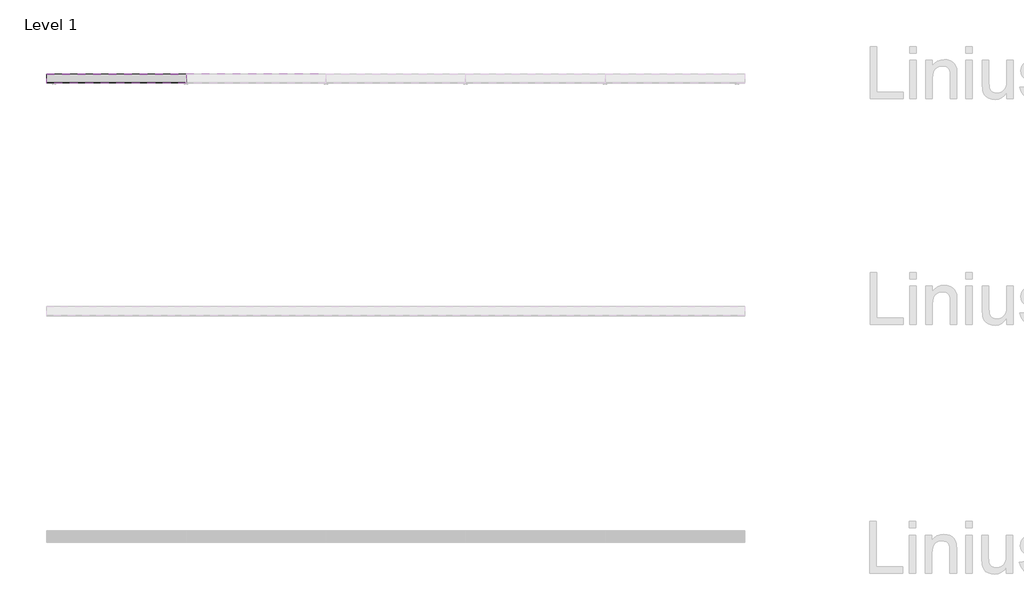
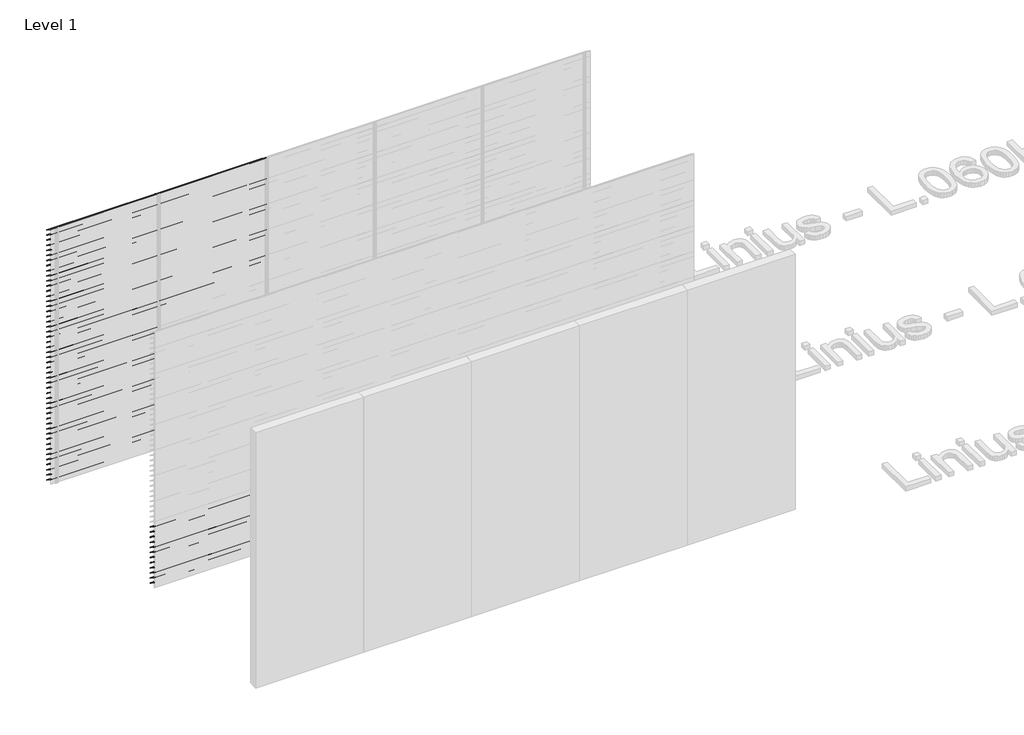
# One storey, part 132 of 153: 85 proxies.
"""IFC4 building model written with IfcOpenShell, lengths in millimetres."""

from ifc_helpers import new_model, si_unit, frame, origin, place, context, project, spatial, polyline, outline, extrude, element, save

model = new_model("IFC4")

# Units and contexts
model_context = context("Model", 3, world=origin())
ifc_project = project(units=[si_unit("LENGTHUNIT", "METRE", prefix="MILLI")], contexts=[model_context])

# Site, building, storey
site = spatial("IfcSite", under=ifc_project)
building = spatial("IfcBuilding", under=site)
storey = spatial("IfcBuildingStorey", under=building, Name="Level 1", Elevation=0.0)

# Proxies
placement = place(None, origin())
element("IfcBuildingElementProxy", 1, Name="Wall Sweeps", at=placement, inside=storey, context=model_context, shape_type="SweptSolid", body=[
    extrude(outline(polyline([(74061.0540136, 2946.0), (74061.0540136, 2940.0), (74059.8040136, 2940.7216933), (74059.8040136, 2945.2538091), (73983.0540136, 2993.9915103), (73983.0540136, 3000.0), (73984.3040136, 3000.0), (73984.3040136, 2994.7377012), (74061.0540136, 2946.0)])), frame((466.6208097, 0.0, 0.0), z_axis=(1.0, 0.0, 0.0), x_axis=(0.0, 1.0, 0.0)), (0.0, 0.0, 1.0), 1200.0000002),
])
element("IfcBuildingElementProxy", 2, Name="Wall Sweeps", at=placement, inside=storey, context=model_context, shape_type="SweptSolid", body=[
    extrude(outline(polyline([(74061.0540136, 2886.0), (74061.0540136, 2880.0), (74059.8040136, 2880.7216933), (74059.8040136, 2885.2538091), (73983.0540136, 2933.9915103), (73983.0540136, 2940.0), (73984.3040136, 2940.0), (73984.3040136, 2934.7377012), (74061.0540136, 2886.0)])), frame((466.6208097, 0.0, 0.0), z_axis=(1.0, 0.0, 0.0), x_axis=(0.0, 1.0, 0.0)), (0.0, 0.0, 1.0), 1200.0000002),
])
element("IfcBuildingElementProxy", 3, Name="Wall Sweeps", at=placement, inside=storey, context=model_context, shape_type="SweptSolid", body=[
    extrude(outline(polyline([(74061.0540136, 2826.0), (74061.0540136, 2820.0), (74059.8040136, 2820.7216933), (74059.8040136, 2825.2538091), (73983.0540136, 2873.9915103), (73983.0540136, 2880.0), (73984.3040136, 2880.0), (73984.3040136, 2874.7377012), (74061.0540136, 2826.0)])), frame((466.6208097, 0.0, 0.0), z_axis=(1.0, 0.0, 0.0), x_axis=(0.0, 1.0, 0.0)), (0.0, 0.0, 1.0), 1200.0000002),
])
element("IfcBuildingElementProxy", 4, Name="Wall Sweeps", at=placement, inside=storey, context=model_context, shape_type="SweptSolid", body=[
    extrude(outline(polyline([(74061.0540136, 2766.0), (74061.0540136, 2760.0), (74059.8040136, 2760.7216933), (74059.8040136, 2765.2538091), (73983.0540136, 2813.9915103), (73983.0540136, 2820.0), (73984.3040136, 2820.0), (73984.3040136, 2814.7377012), (74061.0540136, 2766.0)])), frame((466.6208097, 0.0, 0.0), z_axis=(1.0, 0.0, 0.0), x_axis=(0.0, 1.0, 0.0)), (0.0, 0.0, 1.0), 1200.0000002),
])
element("IfcBuildingElementProxy", 5, Name="Wall Sweeps", at=placement, inside=storey, context=model_context, shape_type="SweptSolid", body=[
    extrude(outline(polyline([(74061.0540136, 2706.0), (74061.0540136, 2700.0), (74059.8040136, 2700.7216933), (74059.8040136, 2705.2538091), (73983.0540136, 2753.9915103), (73983.0540136, 2760.0), (73984.3040136, 2760.0), (73984.3040136, 2754.7377012), (74061.0540136, 2706.0)])), frame((466.6208097, 0.0, 0.0), z_axis=(1.0, 0.0, 0.0), x_axis=(0.0, 1.0, 0.0)), (0.0, 0.0, 1.0), 1200.0000002),
])
element("IfcBuildingElementProxy", 6, Name="Wall Sweeps", at=placement, inside=storey, context=model_context, shape_type="SweptSolid", body=[
    extrude(outline(polyline([(74061.0540136, 2646.0), (74061.0540136, 2640.0), (74059.8040136, 2640.7216933), (74059.8040136, 2645.2538091), (73983.0540136, 2693.9915103), (73983.0540136, 2700.0), (73984.3040136, 2700.0), (73984.3040136, 2694.7377012), (74061.0540136, 2646.0)])), frame((466.6208097, 0.0, 0.0), z_axis=(1.0, 0.0, 0.0), x_axis=(0.0, 1.0, 0.0)), (0.0, 0.0, 1.0), 1200.0000002),
])
element("IfcBuildingElementProxy", 7, Name="Wall Sweeps", at=placement, inside=storey, context=model_context, shape_type="SweptSolid", body=[
    extrude(outline(polyline([(74061.0540136, 2586.0), (74061.0540136, 2580.0), (74059.8040136, 2580.7216933), (74059.8040136, 2585.2538091), (73983.0540136, 2633.9915103), (73983.0540136, 2640.0), (73984.3040136, 2640.0), (73984.3040136, 2634.7377012), (74061.0540136, 2586.0)])), frame((466.6208097, 0.0, 0.0), z_axis=(1.0, 0.0, 0.0), x_axis=(0.0, 1.0, 0.0)), (0.0, 0.0, 1.0), 1200.0000002),
])
element("IfcBuildingElementProxy", 8, Name="Wall Sweeps", at=placement, inside=storey, context=model_context, shape_type="SweptSolid", body=[
    extrude(outline(polyline([(74061.0540136, 2526.0), (74061.0540136, 2520.0), (74059.8040136, 2520.7216933), (74059.8040136, 2525.2538091), (73983.0540136, 2573.9915103), (73983.0540136, 2580.0), (73984.3040136, 2580.0), (73984.3040136, 2574.7377012), (74061.0540136, 2526.0)])), frame((466.6208097, 0.0, 0.0), z_axis=(1.0, 0.0, 0.0), x_axis=(0.0, 1.0, 0.0)), (0.0, 0.0, 1.0), 1200.0000002),
])
element("IfcBuildingElementProxy", 9, Name="Wall Sweeps", at=placement, inside=storey, context=model_context, shape_type="SweptSolid", body=[
    extrude(outline(polyline([(74061.0540136, 2466.0), (74061.0540136, 2460.0), (74059.8040136, 2460.7216933), (74059.8040136, 2465.2538091), (73983.0540136, 2513.9915103), (73983.0540136, 2520.0), (73984.3040136, 2520.0), (73984.3040136, 2514.7377012), (74061.0540136, 2466.0)])), frame((466.6208097, 0.0, 0.0), z_axis=(1.0, 0.0, 0.0), x_axis=(0.0, 1.0, 0.0)), (0.0, 0.0, 1.0), 1200.0000002),
])
element("IfcBuildingElementProxy", 10, Name="Wall Sweeps", at=placement, inside=storey, context=model_context, shape_type="SweptSolid", body=[
    extrude(outline(polyline([(74061.0540136, 2406.0), (74061.0540136, 2400.0), (74059.8040136, 2400.7216933), (74059.8040136, 2405.2538091), (73983.0540136, 2453.9915103), (73983.0540136, 2460.0), (73984.3040136, 2460.0), (73984.3040136, 2454.7377012), (74061.0540136, 2406.0)])), frame((466.6208097, 0.0, 0.0), z_axis=(1.0, 0.0, 0.0), x_axis=(0.0, 1.0, 0.0)), (0.0, 0.0, 1.0), 1200.0000002),
])
element("IfcBuildingElementProxy", 11, Name="Wall Sweeps", at=placement, inside=storey, context=model_context, shape_type="SweptSolid", body=[
    extrude(outline(polyline([(74061.0540136, 2346.0), (74061.0540136, 2340.0), (74059.8040136, 2340.7216933), (74059.8040136, 2345.2538091), (73983.0540136, 2393.9915103), (73983.0540136, 2400.0), (73984.3040136, 2400.0), (73984.3040136, 2394.7377012), (74061.0540136, 2346.0)])), frame((466.6208097, 0.0, 0.0), z_axis=(1.0, 0.0, 0.0), x_axis=(0.0, 1.0, 0.0)), (0.0, 0.0, 1.0), 1200.0000002),
])
element("IfcBuildingElementProxy", 12, Name="Wall Sweeps", at=placement, inside=storey, context=model_context, shape_type="SweptSolid", body=[
    extrude(outline(polyline([(74061.0540136, 2286.0), (74061.0540136, 2280.0), (74059.8040136, 2280.7216933), (74059.8040136, 2285.2538091), (73983.0540136, 2333.9915103), (73983.0540136, 2340.0), (73984.3040136, 2340.0), (73984.3040136, 2334.7377012), (74061.0540136, 2286.0)])), frame((466.6208097, 0.0, 0.0), z_axis=(1.0, 0.0, 0.0), x_axis=(0.0, 1.0, 0.0)), (0.0, 0.0, 1.0), 1200.0000002),
])
element("IfcBuildingElementProxy", 13, Name="Wall Sweeps", at=placement, inside=storey, context=model_context, shape_type="SweptSolid", body=[
    extrude(outline(polyline([(74061.0540136, 2226.0), (74061.0540136, 2220.0), (74059.8040136, 2220.7216933), (74059.8040136, 2225.2538091), (73983.0540136, 2273.9915103), (73983.0540136, 2280.0), (73984.3040136, 2280.0), (73984.3040136, 2274.7377012), (74061.0540136, 2226.0)])), frame((466.6208097, 0.0, 0.0), z_axis=(1.0, 0.0, 0.0), x_axis=(0.0, 1.0, 0.0)), (0.0, 0.0, 1.0), 1200.0000002),
])
element("IfcBuildingElementProxy", 14, Name="Wall Sweeps", at=placement, inside=storey, context=model_context, shape_type="SweptSolid", body=[
    extrude(outline(polyline([(74061.0540136, 2166.0), (74061.0540136, 2160.0), (74059.8040136, 2160.7216933), (74059.8040136, 2165.2538091), (73983.0540136, 2213.9915103), (73983.0540136, 2220.0), (73984.3040136, 2220.0), (73984.3040136, 2214.7377012), (74061.0540136, 2166.0)])), frame((466.6208097, 0.0, 0.0), z_axis=(1.0, 0.0, 0.0), x_axis=(0.0, 1.0, 0.0)), (0.0, 0.0, 1.0), 1200.0000002),
])
element("IfcBuildingElementProxy", 15, Name="Wall Sweeps", at=placement, inside=storey, context=model_context, shape_type="SweptSolid", body=[
    extrude(outline(polyline([(74061.0540136, 2106.0), (74061.0540136, 2100.0), (74059.8040136, 2100.7216933), (74059.8040136, 2105.2538091), (73983.0540136, 2153.9915103), (73983.0540136, 2160.0), (73984.3040136, 2160.0), (73984.3040136, 2154.7377012), (74061.0540136, 2106.0)])), frame((466.6208097, 0.0, 0.0), z_axis=(1.0, 0.0, 0.0), x_axis=(0.0, 1.0, 0.0)), (0.0, 0.0, 1.0), 1200.0000002),
])
element("IfcBuildingElementProxy", 16, Name="Wall Sweeps", at=placement, inside=storey, context=model_context, shape_type="SweptSolid", body=[
    extrude(outline(polyline([(74061.0540136, 2046.0), (74061.0540136, 2040.0), (74059.8040136, 2040.7216933), (74059.8040136, 2045.2538091), (73983.0540136, 2093.9915103), (73983.0540136, 2100.0), (73984.3040136, 2100.0), (73984.3040136, 2094.7377012), (74061.0540136, 2046.0)])), frame((466.6208097, 0.0, 0.0), z_axis=(1.0, 0.0, 0.0), x_axis=(0.0, 1.0, 0.0)), (0.0, 0.0, 1.0), 1200.0000002),
])
element("IfcBuildingElementProxy", 17, Name="Wall Sweeps", at=placement, inside=storey, context=model_context, shape_type="SweptSolid", body=[
    extrude(outline(polyline([(74061.0540136, 1986.0), (74061.0540136, 1980.0), (74059.8040136, 1980.7216933), (74059.8040136, 1985.2538091), (73983.0540136, 2033.9915103), (73983.0540136, 2040.0), (73984.3040136, 2040.0), (73984.3040136, 2034.7377012), (74061.0540136, 1986.0)])), frame((466.6208097, 0.0, 0.0), z_axis=(1.0, 0.0, 0.0), x_axis=(0.0, 1.0, 0.0)), (0.0, 0.0, 1.0), 1200.0000002),
])
element("IfcBuildingElementProxy", 18, Name="Wall Sweeps", at=placement, inside=storey, context=model_context, shape_type="SweptSolid", body=[
    extrude(outline(polyline([(74061.0540136, 1926.0), (74061.0540136, 1920.0), (74059.8040136, 1920.7216933), (74059.8040136, 1925.2538091), (73983.0540136, 1973.9915103), (73983.0540136, 1980.0), (73984.3040136, 1980.0), (73984.3040136, 1974.7377012), (74061.0540136, 1926.0)])), frame((466.6208097, 0.0, 0.0), z_axis=(1.0, 0.0, 0.0), x_axis=(0.0, 1.0, 0.0)), (0.0, 0.0, 1.0), 1200.0000002),
])
element("IfcBuildingElementProxy", 19, Name="Wall Sweeps", at=placement, inside=storey, context=model_context, shape_type="SweptSolid", body=[
    extrude(outline(polyline([(74061.0540136, 1866.0), (74061.0540136, 1860.0), (74059.8040136, 1860.7216933), (74059.8040136, 1865.2538091), (73983.0540136, 1913.9915103), (73983.0540136, 1920.0), (73984.3040136, 1920.0), (73984.3040136, 1914.7377012), (74061.0540136, 1866.0)])), frame((466.6208097, 0.0, 0.0), z_axis=(1.0, 0.0, 0.0), x_axis=(0.0, 1.0, 0.0)), (0.0, 0.0, 1.0), 1200.0000002),
])
element("IfcBuildingElementProxy", 20, Name="Wall Sweeps", at=placement, inside=storey, context=model_context, shape_type="SweptSolid", body=[
    extrude(outline(polyline([(74061.0540136, 1806.0), (74061.0540136, 1800.0), (74059.8040136, 1800.7216933), (74059.8040136, 1805.2538091), (73983.0540136, 1853.9915103), (73983.0540136, 1860.0), (73984.3040136, 1860.0), (73984.3040136, 1854.7377012), (74061.0540136, 1806.0)])), frame((466.6208097, 0.0, 0.0), z_axis=(1.0, 0.0, 0.0), x_axis=(0.0, 1.0, 0.0)), (0.0, 0.0, 1.0), 1200.0000002),
])
element("IfcBuildingElementProxy", 21, Name="Wall Sweeps", at=placement, inside=storey, context=model_context, shape_type="SweptSolid", body=[
    extrude(outline(polyline([(74061.0540136, 1746.0), (74061.0540136, 1740.0), (74059.8040136, 1740.7216933), (74059.8040136, 1745.2538091), (73983.0540136, 1793.9915103), (73983.0540136, 1800.0), (73984.3040136, 1800.0), (73984.3040136, 1794.7377012), (74061.0540136, 1746.0)])), frame((466.6208097, 0.0, 0.0), z_axis=(1.0, 0.0, 0.0), x_axis=(0.0, 1.0, 0.0)), (0.0, 0.0, 1.0), 1200.0000002),
])
element("IfcBuildingElementProxy", 22, Name="Wall Sweeps", at=placement, inside=storey, context=model_context, shape_type="SweptSolid", body=[
    extrude(outline(polyline([(74061.0540136, 1686.0), (74061.0540136, 1680.0), (74059.8040136, 1680.7216933), (74059.8040136, 1685.2538091), (73983.0540136, 1733.9915103), (73983.0540136, 1740.0), (73984.3040136, 1740.0), (73984.3040136, 1734.7377012), (74061.0540136, 1686.0)])), frame((466.6208097, 0.0, 0.0), z_axis=(1.0, 0.0, 0.0), x_axis=(0.0, 1.0, 0.0)), (0.0, 0.0, 1.0), 1200.0000002),
])
element("IfcBuildingElementProxy", 23, Name="Wall Sweeps", at=placement, inside=storey, context=model_context, shape_type="SweptSolid", body=[
    extrude(outline(polyline([(74061.0540136, 1626.0), (74061.0540136, 1620.0), (74059.8040136, 1620.7216933), (74059.8040136, 1625.2538091), (73983.0540136, 1673.9915103), (73983.0540136, 1680.0), (73984.3040136, 1680.0), (73984.3040136, 1674.7377012), (74061.0540136, 1626.0)])), frame((466.6208097, 0.0, 0.0), z_axis=(1.0, 0.0, 0.0), x_axis=(0.0, 1.0, 0.0)), (0.0, 0.0, 1.0), 1200.0000002),
])
element("IfcBuildingElementProxy", 24, Name="Wall Sweeps", at=placement, inside=storey, context=model_context, shape_type="SweptSolid", body=[
    extrude(outline(polyline([(74061.0540136, 1566.0), (74061.0540136, 1560.0), (74059.8040136, 1560.7216933), (74059.8040136, 1565.2538091), (73983.0540136, 1613.9915103), (73983.0540136, 1620.0), (73984.3040136, 1620.0), (73984.3040136, 1614.7377012), (74061.0540136, 1566.0)])), frame((466.6208097, 0.0, 0.0), z_axis=(1.0, 0.0, 0.0), x_axis=(0.0, 1.0, 0.0)), (0.0, 0.0, 1.0), 1200.0000002),
])
element("IfcBuildingElementProxy", 25, Name="Wall Sweeps", at=placement, inside=storey, context=model_context, shape_type="SweptSolid", body=[
    extrude(outline(polyline([(74061.0540136, 1506.0), (74061.0540136, 1500.0), (74059.8040136, 1500.7216933), (74059.8040136, 1505.2538091), (73983.0540136, 1553.9915103), (73983.0540136, 1560.0), (73984.3040136, 1560.0), (73984.3040136, 1554.7377012), (74061.0540136, 1506.0)])), frame((466.6208097, 0.0, 0.0), z_axis=(1.0, 0.0, 0.0), x_axis=(0.0, 1.0, 0.0)), (0.0, 0.0, 1.0), 1200.0000002),
])
element("IfcBuildingElementProxy", 26, Name="Wall Sweeps", at=placement, inside=storey, context=model_context, shape_type="SweptSolid", body=[
    extrude(outline(polyline([(74061.0540136, 1446.0), (74061.0540136, 1440.0), (74059.8040136, 1440.7216933), (74059.8040136, 1445.2538091), (73983.0540136, 1493.9915103), (73983.0540136, 1500.0), (73984.3040136, 1500.0), (73984.3040136, 1494.7377012), (74061.0540136, 1446.0)])), frame((466.6208097, 0.0, 0.0), z_axis=(1.0, 0.0, 0.0), x_axis=(0.0, 1.0, 0.0)), (0.0, 0.0, 1.0), 1200.0000002),
])
element("IfcBuildingElementProxy", 27, Name="Wall Sweeps", at=placement, inside=storey, context=model_context, shape_type="SweptSolid", body=[
    extrude(outline(polyline([(74061.0540136, 1386.0), (74061.0540136, 1380.0), (74059.8040136, 1380.7216933), (74059.8040136, 1385.2538091), (73983.0540136, 1433.9915103), (73983.0540136, 1440.0), (73984.3040136, 1440.0), (73984.3040136, 1434.7377012), (74061.0540136, 1386.0)])), frame((466.6208097, 0.0, 0.0), z_axis=(1.0, 0.0, 0.0), x_axis=(0.0, 1.0, 0.0)), (0.0, 0.0, 1.0), 1200.0000002),
])
element("IfcBuildingElementProxy", 28, Name="Wall Sweeps", at=placement, inside=storey, context=model_context, shape_type="SweptSolid", body=[
    extrude(outline(polyline([(74061.0540136, 1326.0), (74061.0540136, 1320.0), (74059.8040136, 1320.7216933), (74059.8040136, 1325.2538091), (73983.0540136, 1373.9915103), (73983.0540136, 1380.0), (73984.3040136, 1380.0), (73984.3040136, 1374.7377012), (74061.0540136, 1326.0)])), frame((466.6208097, 0.0, 0.0), z_axis=(1.0, 0.0, 0.0), x_axis=(0.0, 1.0, 0.0)), (0.0, 0.0, 1.0), 1200.0000002),
])
element("IfcBuildingElementProxy", 29, Name="Wall Sweeps", at=placement, inside=storey, context=model_context, shape_type="SweptSolid", body=[
    extrude(outline(polyline([(74061.0540136, 1266.0), (74061.0540136, 1260.0), (74059.8040136, 1260.7216933), (74059.8040136, 1265.2538091), (73983.0540136, 1313.9915103), (73983.0540136, 1320.0), (73984.3040136, 1320.0), (73984.3040136, 1314.7377012), (74061.0540136, 1266.0)])), frame((466.6208097, 0.0, 0.0), z_axis=(1.0, 0.0, 0.0), x_axis=(0.0, 1.0, 0.0)), (0.0, 0.0, 1.0), 1200.0000002),
])
element("IfcBuildingElementProxy", 30, Name="Wall Sweeps", at=placement, inside=storey, context=model_context, shape_type="SweptSolid", body=[
    extrude(outline(polyline([(74061.0540136, 1206.0), (74061.0540136, 1200.0), (74059.8040136, 1200.7216933), (74059.8040136, 1205.2538091), (73983.0540136, 1253.9915103), (73983.0540136, 1260.0), (73984.3040136, 1260.0), (73984.3040136, 1254.7377012), (74061.0540136, 1206.0)])), frame((466.6208097, 0.0, 0.0), z_axis=(1.0, 0.0, 0.0), x_axis=(0.0, 1.0, 0.0)), (0.0, 0.0, 1.0), 1200.0000002),
])
element("IfcBuildingElementProxy", 31, Name="Wall Sweeps", at=placement, inside=storey, context=model_context, shape_type="SweptSolid", body=[
    extrude(outline(polyline([(74061.0540136, 1146.0), (74061.0540136, 1140.0), (74059.8040136, 1140.7216933), (74059.8040136, 1145.2538091), (73983.0540136, 1193.9915103), (73983.0540136, 1200.0), (73984.3040136, 1200.0), (73984.3040136, 1194.7377012), (74061.0540136, 1146.0)])), frame((466.6208097, 0.0, 0.0), z_axis=(1.0, 0.0, 0.0), x_axis=(0.0, 1.0, 0.0)), (0.0, 0.0, 1.0), 1200.0000002),
])
element("IfcBuildingElementProxy", 32, Name="Wall Sweeps", at=placement, inside=storey, context=model_context, shape_type="SweptSolid", body=[
    extrude(outline(polyline([(74061.0540136, 1086.0), (74061.0540136, 1080.0), (74059.8040136, 1080.7216933), (74059.8040136, 1085.2538091), (73983.0540136, 1133.9915103), (73983.0540136, 1140.0), (73984.3040136, 1140.0), (73984.3040136, 1134.7377012), (74061.0540136, 1086.0)])), frame((466.6208097, 0.0, 0.0), z_axis=(1.0, 0.0, 0.0), x_axis=(0.0, 1.0, 0.0)), (0.0, 0.0, 1.0), 1200.0000002),
])
element("IfcBuildingElementProxy", 33, Name="Wall Sweeps", at=placement, inside=storey, context=model_context, shape_type="SweptSolid", body=[
    extrude(outline(polyline([(74061.0540136, 1026.0), (74061.0540136, 1020.0), (74059.8040136, 1020.7216933), (74059.8040136, 1025.2538091), (73983.0540136, 1073.9915103), (73983.0540136, 1080.0), (73984.3040136, 1080.0), (73984.3040136, 1074.7377012), (74061.0540136, 1026.0)])), frame((466.6208097, 0.0, 0.0), z_axis=(1.0, 0.0, 0.0), x_axis=(0.0, 1.0, 0.0)), (0.0, 0.0, 1.0), 1200.0000002),
])
element("IfcBuildingElementProxy", 34, Name="Wall Sweeps", at=placement, inside=storey, context=model_context, shape_type="SweptSolid", body=[
    extrude(outline(polyline([(74061.0540136, 966.0), (74061.0540136, 960.0), (74059.8040136, 960.7216933), (74059.8040136, 965.2538091), (73983.0540136, 1013.9915103), (73983.0540136, 1020.0), (73984.3040136, 1020.0), (73984.3040136, 1014.7377012), (74061.0540136, 966.0)])), frame((466.6208097, 0.0, 0.0), z_axis=(1.0, 0.0, 0.0), x_axis=(0.0, 1.0, 0.0)), (0.0, 0.0, 1.0), 1200.0000002),
])
element("IfcBuildingElementProxy", 35, Name="Wall Sweeps", at=placement, inside=storey, context=model_context, shape_type="SweptSolid", body=[
    extrude(outline(polyline([(74061.0540136, 906.0), (74061.0540136, 900.0), (74059.8040136, 900.7216933), (74059.8040136, 905.2538091), (73983.0540136, 953.9915103), (73983.0540136, 960.0), (73984.3040136, 960.0), (73984.3040136, 954.7377012), (74061.0540136, 906.0)])), frame((466.6208097, 0.0, 0.0), z_axis=(1.0, 0.0, 0.0), x_axis=(0.0, 1.0, 0.0)), (0.0, 0.0, 1.0), 1200.0000002),
])
element("IfcBuildingElementProxy", 36, Name="Wall Sweeps", at=placement, inside=storey, context=model_context, shape_type="SweptSolid", body=[
    extrude(outline(polyline([(74061.0540136, 846.0), (74061.0540136, 840.0), (74059.8040136, 840.7216933), (74059.8040136, 845.2538091), (73983.0540136, 893.9915103), (73983.0540136, 900.0), (73984.3040136, 900.0), (73984.3040136, 894.7377012), (74061.0540136, 846.0)])), frame((466.6208097, 0.0, 0.0), z_axis=(1.0, 0.0, 0.0), x_axis=(0.0, 1.0, 0.0)), (0.0, 0.0, 1.0), 1200.0000002),
])
element("IfcBuildingElementProxy", 37, Name="Wall Sweeps", at=placement, inside=storey, context=model_context, shape_type="SweptSolid", body=[
    extrude(outline(polyline([(74061.0540136, 786.0), (74061.0540136, 780.0), (74059.8040136, 780.7216933), (74059.8040136, 785.2538091), (73983.0540136, 833.9915103), (73983.0540136, 840.0), (73984.3040136, 840.0), (73984.3040136, 834.7377012), (74061.0540136, 786.0)])), frame((466.6208097, 0.0, 0.0), z_axis=(1.0, 0.0, 0.0), x_axis=(0.0, 1.0, 0.0)), (0.0, 0.0, 1.0), 1200.0000002),
])
element("IfcBuildingElementProxy", 38, Name="Wall Sweeps", at=placement, inside=storey, context=model_context, shape_type="SweptSolid", body=[
    extrude(outline(polyline([(74061.0540136, 726.0), (74061.0540136, 720.0), (74059.8040136, 720.7216933), (74059.8040136, 725.2538091), (73983.0540136, 773.9915103), (73983.0540136, 780.0), (73984.3040136, 780.0), (73984.3040136, 774.7377012), (74061.0540136, 726.0)])), frame((466.6208097, 0.0, 0.0), z_axis=(1.0, 0.0, 0.0), x_axis=(0.0, 1.0, 0.0)), (0.0, 0.0, 1.0), 1200.0000002),
])
element("IfcBuildingElementProxy", 39, Name="Wall Sweeps", at=placement, inside=storey, context=model_context, shape_type="SweptSolid", body=[
    extrude(outline(polyline([(74061.0540136, 666.0), (74061.0540136, 660.0), (74059.8040136, 660.7216933), (74059.8040136, 665.2538091), (73983.0540136, 713.9915103), (73983.0540136, 720.0), (73984.3040136, 720.0), (73984.3040136, 714.7377012), (74061.0540136, 666.0)])), frame((466.6208097, 0.0, 0.0), z_axis=(1.0, 0.0, 0.0), x_axis=(0.0, 1.0, 0.0)), (0.0, 0.0, 1.0), 1200.0000002),
])
element("IfcBuildingElementProxy", 40, Name="Wall Sweeps", at=placement, inside=storey, context=model_context, shape_type="SweptSolid", body=[
    extrude(outline(polyline([(74061.0540136, 606.0), (74061.0540136, 600.0), (74059.8040136, 600.7216933), (74059.8040136, 605.2538091), (73983.0540136, 653.9915103), (73983.0540136, 660.0), (73984.3040136, 660.0), (73984.3040136, 654.7377012), (74061.0540136, 606.0)])), frame((466.6208097, 0.0, 0.0), z_axis=(1.0, 0.0, 0.0), x_axis=(0.0, 1.0, 0.0)), (0.0, 0.0, 1.0), 1200.0000002),
])
element("IfcBuildingElementProxy", 41, Name="Wall Sweeps", at=placement, inside=storey, context=model_context, shape_type="SweptSolid", body=[
    extrude(outline(polyline([(74061.0540136, 546.0), (74061.0540136, 540.0), (74059.8040136, 540.7216933), (74059.8040136, 545.2538091), (73983.0540136, 593.9915103), (73983.0540136, 600.0), (73984.3040136, 600.0), (73984.3040136, 594.7377012), (74061.0540136, 546.0)])), frame((466.6208097, 0.0, 0.0), z_axis=(1.0, 0.0, 0.0), x_axis=(0.0, 1.0, 0.0)), (0.0, 0.0, 1.0), 1200.0000002),
])
element("IfcBuildingElementProxy", 42, Name="Wall Sweeps", at=placement, inside=storey, context=model_context, shape_type="SweptSolid", body=[
    extrude(outline(polyline([(74061.0540136, 486.0), (74061.0540136, 480.0), (74059.8040136, 480.7216933), (74059.8040136, 485.2538091), (73983.0540136, 533.9915103), (73983.0540136, 540.0), (73984.3040136, 540.0), (73984.3040136, 534.7377012), (74061.0540136, 486.0)])), frame((466.6208097, 0.0, 0.0), z_axis=(1.0, 0.0, 0.0), x_axis=(0.0, 1.0, 0.0)), (0.0, 0.0, 1.0), 1200.0000002),
])
element("IfcBuildingElementProxy", 43, Name="Wall Sweeps", at=placement, inside=storey, context=model_context, shape_type="SweptSolid", body=[
    extrude(outline(polyline([(74061.0540136, 426.0), (74061.0540136, 420.0), (74059.8040136, 420.7216933), (74059.8040136, 425.2538091), (73983.0540136, 473.9915103), (73983.0540136, 480.0), (73984.3040136, 480.0), (73984.3040136, 474.7377012), (74061.0540136, 426.0)])), frame((466.6208097, 0.0, 0.0), z_axis=(1.0, 0.0, 0.0), x_axis=(0.0, 1.0, 0.0)), (0.0, 0.0, 1.0), 1200.0000002),
])
element("IfcBuildingElementProxy", 44, Name="Wall Sweeps", at=placement, inside=storey, context=model_context, shape_type="SweptSolid", body=[
    extrude(outline(polyline([(74061.0540136, 366.0), (74061.0540136, 360.0), (74059.8040136, 360.7216933), (74059.8040136, 365.2538091), (73983.0540136, 413.9915103), (73983.0540136, 420.0), (73984.3040136, 420.0), (73984.3040136, 414.7377012), (74061.0540136, 366.0)])), frame((466.6208097, 0.0, 0.0), z_axis=(1.0, 0.0, 0.0), x_axis=(0.0, 1.0, 0.0)), (0.0, 0.0, 1.0), 1200.0000002),
])
element("IfcBuildingElementProxy", 45, Name="Wall Sweeps", at=placement, inside=storey, context=model_context, shape_type="SweptSolid", body=[
    extrude(outline(polyline([(74061.0540136, 306.0), (74061.0540136, 300.0), (74059.8040136, 300.7216933), (74059.8040136, 305.2538091), (73983.0540136, 353.9915103), (73983.0540136, 360.0), (73984.3040136, 360.0), (73984.3040136, 354.7377012), (74061.0540136, 306.0)])), frame((466.6208097, 0.0, 0.0), z_axis=(1.0, 0.0, 0.0), x_axis=(0.0, 1.0, 0.0)), (0.0, 0.0, 1.0), 1200.0000002),
])
element("IfcBuildingElementProxy", 46, Name="Wall Sweeps", at=placement, inside=storey, context=model_context, shape_type="SweptSolid", body=[
    extrude(outline(polyline([(74061.0540136, 246.0), (74061.0540136, 240.0), (74059.8040136, 240.7216933), (74059.8040136, 245.2538091), (73983.0540136, 293.9915103), (73983.0540136, 300.0), (73984.3040136, 300.0), (73984.3040136, 294.7377012), (74061.0540136, 246.0)])), frame((466.6208097, 0.0, 0.0), z_axis=(1.0, 0.0, 0.0), x_axis=(0.0, 1.0, 0.0)), (0.0, 0.0, 1.0), 1200.0000002),
])
element("IfcBuildingElementProxy", 47, Name="Wall Sweeps", at=placement, inside=storey, context=model_context, shape_type="SweptSolid", body=[
    extrude(outline(polyline([(74061.0540136, 186.0), (74061.0540136, 180.0), (74059.8040136, 180.7216933), (74059.8040136, 185.2538091), (73983.0540136, 233.9915103), (73983.0540136, 240.0), (73984.3040136, 240.0), (73984.3040136, 234.7377012), (74061.0540136, 186.0)])), frame((466.6208097, 0.0, 0.0), z_axis=(1.0, 0.0, 0.0), x_axis=(0.0, 1.0, 0.0)), (0.0, 0.0, 1.0), 1200.0000002),
])
element("IfcBuildingElementProxy", 48, Name="Wall Sweeps", at=placement, inside=storey, context=model_context, shape_type="SweptSolid", body=[
    extrude(outline(polyline([(74061.0540136, 126.0), (74061.0540136, 120.0), (74059.8040136, 120.7216933), (74059.8040136, 125.2538091), (73983.0540136, 173.9915103), (73983.0540136, 180.0), (73984.3040136, 180.0), (73984.3040136, 174.7377012), (74061.0540136, 126.0)])), frame((466.6208097, 0.0, 0.0), z_axis=(1.0, 0.0, 0.0), x_axis=(0.0, 1.0, 0.0)), (0.0, 0.0, 1.0), 1200.0000002),
])
element("IfcBuildingElementProxy", 49, Name="Wall Sweeps", at=placement, inside=storey, context=model_context, shape_type="SweptSolid", body=[
    extrude(outline(polyline([(74061.0540136, 66.0), (74061.0540136, 60.0), (74059.8040136, 60.7216933), (74059.8040136, 65.2538091), (73983.0540136, 113.9915103), (73983.0540136, 120.0), (73984.3040136, 120.0), (73984.3040136, 114.7377012), (74061.0540136, 66.0)])), frame((466.6208097, 0.0, 0.0), z_axis=(1.0, 0.0, 0.0), x_axis=(0.0, 1.0, 0.0)), (0.0, 0.0, 1.0), 1200.0000002),
])
element("IfcBuildingElementProxy", 50, Name="Wall Sweeps", at=placement, inside=storey, context=model_context, shape_type="SweptSolid", body=[
    extrude(outline(polyline([(74061.0540136, 6.0), (74061.0540136, 0.0), (74059.8040136, 0.7216933), (74059.8040136, 5.2538091), (73983.0540136, 53.9915103), (73983.0540136, 60.0), (73984.3040136, 60.0), (73984.3040136, 54.7377012), (74061.0540136, 6.0)])), frame((466.6208097, 0.0, 0.0), z_axis=(1.0, 0.0, 0.0), x_axis=(0.0, 1.0, 0.0)), (0.0, 0.0, 1.0), 1200.0000002),
])
element("IfcBuildingElementProxy", 51, Name="Wall Sweeps", at=placement, inside=storey, context=model_context, shape_type="SweptSolid", body=[
    extrude(outline(polyline([(74061.0540136, 2946.0), (74061.0540136, 2940.0), (74059.8040136, 2940.7216933), (74059.8040136, 2945.2538091), (73983.0540136, 2993.9915103), (73983.0540136, 3000.0), (73984.3040136, 3000.0), (73984.3040136, 2994.7377012), (74061.0540136, 2946.0)])), frame((1666.6208099, 0.0, 0.0), z_axis=(1.0, 0.0, 0.0), x_axis=(0.0, 1.0, 0.0)), (0.0, 0.0, 1.0), 1199.9999999),
])
element("IfcBuildingElementProxy", 52, Name="Wall Sweeps", at=placement, inside=storey, context=model_context, shape_type="SweptSolid", body=[
    extrude(outline(polyline([(74061.0540136, 2886.0), (74061.0540136, 2880.0), (74059.8040136, 2880.7216933), (74059.8040136, 2885.2538091), (73983.0540136, 2933.9915103), (73983.0540136, 2940.0), (73984.3040136, 2940.0), (73984.3040136, 2934.7377012), (74061.0540136, 2886.0)])), frame((1666.6208099, 0.0, 0.0), z_axis=(1.0, 0.0, 0.0), x_axis=(0.0, 1.0, 0.0)), (0.0, 0.0, 1.0), 1199.9999999),
])
element("IfcBuildingElementProxy", 53, Name="Wall Sweeps", at=placement, inside=storey, context=model_context, shape_type="SweptSolid", body=[
    extrude(outline(polyline([(74061.0540136, 2826.0), (74061.0540136, 2820.0), (74059.8040136, 2820.7216933), (74059.8040136, 2825.2538091), (73983.0540136, 2873.9915103), (73983.0540136, 2880.0), (73984.3040136, 2880.0), (73984.3040136, 2874.7377012), (74061.0540136, 2826.0)])), frame((1666.6208099, 0.0, 0.0), z_axis=(1.0, 0.0, 0.0), x_axis=(0.0, 1.0, 0.0)), (0.0, 0.0, 1.0), 1199.9999999),
])
element("IfcBuildingElementProxy", 54, Name="Wall Sweeps", at=placement, inside=storey, context=model_context, shape_type="SweptSolid", body=[
    extrude(outline(polyline([(74061.0540136, 2766.0), (74061.0540136, 2760.0), (74059.8040136, 2760.7216933), (74059.8040136, 2765.2538091), (73983.0540136, 2813.9915103), (73983.0540136, 2820.0), (73984.3040136, 2820.0), (73984.3040136, 2814.7377012), (74061.0540136, 2766.0)])), frame((1666.6208099, 0.0, 0.0), z_axis=(1.0, 0.0, 0.0), x_axis=(0.0, 1.0, 0.0)), (0.0, 0.0, 1.0), 1199.9999999),
])
element("IfcBuildingElementProxy", 55, Name="Wall Sweeps", at=placement, inside=storey, context=model_context, shape_type="SweptSolid", body=[
    extrude(outline(polyline([(74061.0540136, 2706.0), (74061.0540136, 2700.0), (74059.8040136, 2700.7216933), (74059.8040136, 2705.2538091), (73983.0540136, 2753.9915103), (73983.0540136, 2760.0), (73984.3040136, 2760.0), (73984.3040136, 2754.7377012), (74061.0540136, 2706.0)])), frame((1666.6208099, 0.0, 0.0), z_axis=(1.0, 0.0, 0.0), x_axis=(0.0, 1.0, 0.0)), (0.0, 0.0, 1.0), 1199.9999999),
])
element("IfcBuildingElementProxy", 56, Name="Wall Sweeps", at=placement, inside=storey, context=model_context, shape_type="SweptSolid", body=[
    extrude(outline(polyline([(74061.0540136, 2646.0), (74061.0540136, 2640.0), (74059.8040136, 2640.7216933), (74059.8040136, 2645.2538091), (73983.0540136, 2693.9915103), (73983.0540136, 2700.0), (73984.3040136, 2700.0), (73984.3040136, 2694.7377012), (74061.0540136, 2646.0)])), frame((1666.6208099, 0.0, 0.0), z_axis=(1.0, 0.0, 0.0), x_axis=(0.0, 1.0, 0.0)), (0.0, 0.0, 1.0), 1199.9999999),
])
element("IfcBuildingElementProxy", 57, Name="Wall Sweeps", at=placement, inside=storey, context=model_context, shape_type="SweptSolid", body=[
    extrude(outline(polyline([(74061.0540136, 2586.0), (74061.0540136, 2580.0), (74059.8040136, 2580.7216933), (74059.8040136, 2585.2538091), (73983.0540136, 2633.9915103), (73983.0540136, 2640.0), (73984.3040136, 2640.0), (73984.3040136, 2634.7377012), (74061.0540136, 2586.0)])), frame((1666.6208099, 0.0, 0.0), z_axis=(1.0, 0.0, 0.0), x_axis=(0.0, 1.0, 0.0)), (0.0, 0.0, 1.0), 1199.9999999),
])
element("IfcBuildingElementProxy", 58, Name="Wall Sweeps", at=placement, inside=storey, context=model_context, shape_type="SweptSolid", body=[
    extrude(outline(polyline([(74061.0540136, 2526.0), (74061.0540136, 2520.0), (74059.8040136, 2520.7216933), (74059.8040136, 2525.2538091), (73983.0540136, 2573.9915103), (73983.0540136, 2580.0), (73984.3040136, 2580.0), (73984.3040136, 2574.7377012), (74061.0540136, 2526.0)])), frame((1666.6208099, 0.0, 0.0), z_axis=(1.0, 0.0, 0.0), x_axis=(0.0, 1.0, 0.0)), (0.0, 0.0, 1.0), 1199.9999999),
])
element("IfcBuildingElementProxy", 59, Name="Wall Sweeps", at=placement, inside=storey, context=model_context, shape_type="SweptSolid", body=[
    extrude(outline(polyline([(74061.0540136, 2466.0), (74061.0540136, 2460.0), (74059.8040136, 2460.7216933), (74059.8040136, 2465.2538091), (73983.0540136, 2513.9915103), (73983.0540136, 2520.0), (73984.3040136, 2520.0), (73984.3040136, 2514.7377012), (74061.0540136, 2466.0)])), frame((1666.6208099, 0.0, 0.0), z_axis=(1.0, 0.0, 0.0), x_axis=(0.0, 1.0, 0.0)), (0.0, 0.0, 1.0), 1199.9999999),
])
element("IfcBuildingElementProxy", 60, Name="Wall Sweeps", at=placement, inside=storey, context=model_context, shape_type="SweptSolid", body=[
    extrude(outline(polyline([(74061.0540136, 2406.0), (74061.0540136, 2400.0), (74059.8040136, 2400.7216933), (74059.8040136, 2405.2538091), (73983.0540136, 2453.9915103), (73983.0540136, 2460.0), (73984.3040136, 2460.0), (73984.3040136, 2454.7377012), (74061.0540136, 2406.0)])), frame((1666.6208099, 0.0, 0.0), z_axis=(1.0, 0.0, 0.0), x_axis=(0.0, 1.0, 0.0)), (0.0, 0.0, 1.0), 1199.9999999),
])
element("IfcBuildingElementProxy", 61, Name="Wall Sweeps", at=placement, inside=storey, context=model_context, shape_type="SweptSolid", body=[
    extrude(outline(polyline([(74061.0540136, 2346.0), (74061.0540136, 2340.0), (74059.8040136, 2340.7216933), (74059.8040136, 2345.2538091), (73983.0540136, 2393.9915103), (73983.0540136, 2400.0), (73984.3040136, 2400.0), (73984.3040136, 2394.7377012), (74061.0540136, 2346.0)])), frame((1666.6208099, 0.0, 0.0), z_axis=(1.0, 0.0, 0.0), x_axis=(0.0, 1.0, 0.0)), (0.0, 0.0, 1.0), 1199.9999999),
])
element("IfcBuildingElementProxy", 62, Name="Wall Sweeps", at=placement, inside=storey, context=model_context, shape_type="SweptSolid", body=[
    extrude(outline(polyline([(74061.0540136, 2286.0), (74061.0540136, 2280.0), (74059.8040136, 2280.7216933), (74059.8040136, 2285.2538091), (73983.0540136, 2333.9915103), (73983.0540136, 2340.0), (73984.3040136, 2340.0), (73984.3040136, 2334.7377012), (74061.0540136, 2286.0)])), frame((1666.6208099, 0.0, 0.0), z_axis=(1.0, 0.0, 0.0), x_axis=(0.0, 1.0, 0.0)), (0.0, 0.0, 1.0), 1199.9999999),
])
element("IfcBuildingElementProxy", 63, Name="Wall Sweeps", at=placement, inside=storey, context=model_context, shape_type="SweptSolid", body=[
    extrude(outline(polyline([(74061.0540136, 2226.0), (74061.0540136, 2220.0), (74059.8040136, 2220.7216933), (74059.8040136, 2225.2538091), (73983.0540136, 2273.9915103), (73983.0540136, 2280.0), (73984.3040136, 2280.0), (73984.3040136, 2274.7377012), (74061.0540136, 2226.0)])), frame((1666.6208099, 0.0, 0.0), z_axis=(1.0, 0.0, 0.0), x_axis=(0.0, 1.0, 0.0)), (0.0, 0.0, 1.0), 1199.9999999),
])
element("IfcBuildingElementProxy", 64, Name="Wall Sweeps", at=placement, inside=storey, context=model_context, shape_type="SweptSolid", body=[
    extrude(outline(polyline([(74061.0540136, 2166.0), (74061.0540136, 2160.0), (74059.8040136, 2160.7216933), (74059.8040136, 2165.2538091), (73983.0540136, 2213.9915103), (73983.0540136, 2220.0), (73984.3040136, 2220.0), (73984.3040136, 2214.7377012), (74061.0540136, 2166.0)])), frame((1666.6208099, 0.0, 0.0), z_axis=(1.0, 0.0, 0.0), x_axis=(0.0, 1.0, 0.0)), (0.0, 0.0, 1.0), 1199.9999999),
])
element("IfcBuildingElementProxy", 65, Name="Wall Sweeps", at=placement, inside=storey, context=model_context, shape_type="SweptSolid", body=[
    extrude(outline(polyline([(74061.0540136, 2106.0), (74061.0540136, 2100.0), (74059.8040136, 2100.7216933), (74059.8040136, 2105.2538091), (73983.0540136, 2153.9915103), (73983.0540136, 2160.0), (73984.3040136, 2160.0), (73984.3040136, 2154.7377012), (74061.0540136, 2106.0)])), frame((1666.6208099, 0.0, 0.0), z_axis=(1.0, 0.0, 0.0), x_axis=(0.0, 1.0, 0.0)), (0.0, 0.0, 1.0), 1199.9999999),
])
element("IfcBuildingElementProxy", 66, Name="Wall Sweeps", at=placement, inside=storey, context=model_context, shape_type="SweptSolid", body=[
    extrude(outline(polyline([(74061.0540136, 2046.0), (74061.0540136, 2040.0), (74059.8040136, 2040.7216933), (74059.8040136, 2045.2538091), (73983.0540136, 2093.9915103), (73983.0540136, 2100.0), (73984.3040136, 2100.0), (73984.3040136, 2094.7377012), (74061.0540136, 2046.0)])), frame((1666.6208099, 0.0, 0.0), z_axis=(1.0, 0.0, 0.0), x_axis=(0.0, 1.0, 0.0)), (0.0, 0.0, 1.0), 1199.9999999),
])
element("IfcBuildingElementProxy", 67, Name="Wall Sweeps", at=placement, inside=storey, context=model_context, shape_type="SweptSolid", body=[
    extrude(outline(polyline([(74061.0540136, 1986.0), (74061.0540136, 1980.0), (74059.8040136, 1980.7216933), (74059.8040136, 1985.2538091), (73983.0540136, 2033.9915103), (73983.0540136, 2040.0), (73984.3040136, 2040.0), (73984.3040136, 2034.7377012), (74061.0540136, 1986.0)])), frame((1666.6208099, 0.0, 0.0), z_axis=(1.0, 0.0, 0.0), x_axis=(0.0, 1.0, 0.0)), (0.0, 0.0, 1.0), 1199.9999999),
])
element("IfcBuildingElementProxy", 68, Name="Wall Sweeps", at=placement, inside=storey, context=model_context, shape_type="SweptSolid", body=[
    extrude(outline(polyline([(74061.0540136, 1926.0), (74061.0540136, 1920.0), (74059.8040136, 1920.7216933), (74059.8040136, 1925.2538091), (73983.0540136, 1973.9915103), (73983.0540136, 1980.0), (73984.3040136, 1980.0), (73984.3040136, 1974.7377012), (74061.0540136, 1926.0)])), frame((1666.6208099, 0.0, 0.0), z_axis=(1.0, 0.0, 0.0), x_axis=(0.0, 1.0, 0.0)), (0.0, 0.0, 1.0), 1199.9999999),
])
element("IfcBuildingElementProxy", 69, Name="Wall Sweeps", at=placement, inside=storey, context=model_context, shape_type="SweptSolid", body=[
    extrude(outline(polyline([(74061.0540136, 1866.0), (74061.0540136, 1860.0), (74059.8040136, 1860.7216933), (74059.8040136, 1865.2538091), (73983.0540136, 1913.9915103), (73983.0540136, 1920.0), (73984.3040136, 1920.0), (73984.3040136, 1914.7377012), (74061.0540136, 1866.0)])), frame((1666.6208099, 0.0, 0.0), z_axis=(1.0, 0.0, 0.0), x_axis=(0.0, 1.0, 0.0)), (0.0, 0.0, 1.0), 1199.9999999),
])
element("IfcBuildingElementProxy", 70, Name="Wall Sweeps", at=placement, inside=storey, context=model_context, shape_type="SweptSolid", body=[
    extrude(outline(polyline([(74061.0540136, 1806.0), (74061.0540136, 1800.0), (74059.8040136, 1800.7216933), (74059.8040136, 1805.2538091), (73983.0540136, 1853.9915103), (73983.0540136, 1860.0), (73984.3040136, 1860.0), (73984.3040136, 1854.7377012), (74061.0540136, 1806.0)])), frame((1666.6208099, 0.0, 0.0), z_axis=(1.0, 0.0, 0.0), x_axis=(0.0, 1.0, 0.0)), (0.0, 0.0, 1.0), 1199.9999999),
])
element("IfcBuildingElementProxy", 71, Name="Wall Sweeps", at=placement, inside=storey, context=model_context, shape_type="SweptSolid", body=[
    extrude(outline(polyline([(74061.0540136, 1746.0), (74061.0540136, 1740.0), (74059.8040136, 1740.7216933), (74059.8040136, 1745.2538091), (73983.0540136, 1793.9915103), (73983.0540136, 1800.0), (73984.3040136, 1800.0), (73984.3040136, 1794.7377012), (74061.0540136, 1746.0)])), frame((1666.6208099, 0.0, 0.0), z_axis=(1.0, 0.0, 0.0), x_axis=(0.0, 1.0, 0.0)), (0.0, 0.0, 1.0), 1199.9999999),
])
element("IfcBuildingElementProxy", 72, Name="Wall Sweeps", at=placement, inside=storey, context=model_context, shape_type="SweptSolid", body=[
    extrude(outline(polyline([(74061.0540136, 1686.0), (74061.0540136, 1680.0), (74059.8040136, 1680.7216933), (74059.8040136, 1685.2538091), (73983.0540136, 1733.9915103), (73983.0540136, 1740.0), (73984.3040136, 1740.0), (73984.3040136, 1734.7377012), (74061.0540136, 1686.0)])), frame((1666.6208099, 0.0, 0.0), z_axis=(1.0, 0.0, 0.0), x_axis=(0.0, 1.0, 0.0)), (0.0, 0.0, 1.0), 1199.9999999),
])
element("IfcBuildingElementProxy", 73, Name="Wall Sweeps", at=placement, inside=storey, context=model_context, shape_type="SweptSolid", body=[
    extrude(outline(polyline([(74061.0540136, 1626.0), (74061.0540136, 1620.0), (74059.8040136, 1620.7216933), (74059.8040136, 1625.2538091), (73983.0540136, 1673.9915103), (73983.0540136, 1680.0), (73984.3040136, 1680.0), (73984.3040136, 1674.7377012), (74061.0540136, 1626.0)])), frame((1666.6208099, 0.0, 0.0), z_axis=(1.0, 0.0, 0.0), x_axis=(0.0, 1.0, 0.0)), (0.0, 0.0, 1.0), 1199.9999999),
])
element("IfcBuildingElementProxy", 74, Name="Wall Sweeps", at=placement, inside=storey, context=model_context, shape_type="SweptSolid", body=[
    extrude(outline(polyline([(72061.0540136, 666.0), (72061.0540136, 660.0), (72059.8040136, 660.7216933), (72059.8040136, 665.2538091), (71983.0540136, 713.9915103), (71983.0540136, 720.0), (71984.3040136, 720.0), (71984.3040136, 714.7377012), (72061.0540136, 666.0)])), frame((466.6208097, 0.0, 0.0), z_axis=(1.0, 0.0, 0.0), x_axis=(0.0, 1.0, 0.0)), (0.0, 0.0, 1.0), 6000.0),
])
element("IfcBuildingElementProxy", 75, Name="Wall Sweeps", at=placement, inside=storey, context=model_context, shape_type="SweptSolid", body=[
    extrude(outline(polyline([(72061.0540136, 606.0), (72061.0540136, 600.0), (72059.8040136, 600.7216933), (72059.8040136, 605.2538091), (71983.0540136, 653.9915103), (71983.0540136, 660.0), (71984.3040136, 660.0), (71984.3040136, 654.7377012), (72061.0540136, 606.0)])), frame((466.6208097, 0.0, 0.0), z_axis=(1.0, 0.0, 0.0), x_axis=(0.0, 1.0, 0.0)), (0.0, 0.0, 1.0), 6000.0),
])
element("IfcBuildingElementProxy", 76, Name="Wall Sweeps", at=placement, inside=storey, context=model_context, shape_type="SweptSolid", body=[
    extrude(outline(polyline([(72061.0540136, 546.0), (72061.0540136, 540.0), (72059.8040136, 540.7216933), (72059.8040136, 545.2538091), (71983.0540136, 593.9915103), (71983.0540136, 600.0), (71984.3040136, 600.0), (71984.3040136, 594.7377012), (72061.0540136, 546.0)])), frame((466.6208097, 0.0, 0.0), z_axis=(1.0, 0.0, 0.0), x_axis=(0.0, 1.0, 0.0)), (0.0, 0.0, 1.0), 6000.0),
])
element("IfcBuildingElementProxy", 77, Name="Wall Sweeps", at=placement, inside=storey, context=model_context, shape_type="SweptSolid", body=[
    extrude(outline(polyline([(72061.0540136, 486.0), (72061.0540136, 480.0), (72059.8040136, 480.7216933), (72059.8040136, 485.2538091), (71983.0540136, 533.9915103), (71983.0540136, 540.0), (71984.3040136, 540.0), (71984.3040136, 534.7377012), (72061.0540136, 486.0)])), frame((466.6208097, 0.0, 0.0), z_axis=(1.0, 0.0, 0.0), x_axis=(0.0, 1.0, 0.0)), (0.0, 0.0, 1.0), 6000.0),
])
element("IfcBuildingElementProxy", 78, Name="Wall Sweeps", at=placement, inside=storey, context=model_context, shape_type="SweptSolid", body=[
    extrude(outline(polyline([(72061.0540136, 426.0), (72061.0540136, 420.0), (72059.8040136, 420.7216933), (72059.8040136, 425.2538091), (71983.0540136, 473.9915103), (71983.0540136, 480.0), (71984.3040136, 480.0), (71984.3040136, 474.7377012), (72061.0540136, 426.0)])), frame((466.6208097, 0.0, 0.0), z_axis=(1.0, 0.0, 0.0), x_axis=(0.0, 1.0, 0.0)), (0.0, 0.0, 1.0), 6000.0),
])
element("IfcBuildingElementProxy", 79, Name="Wall Sweeps", at=placement, inside=storey, context=model_context, shape_type="SweptSolid", body=[
    extrude(outline(polyline([(72061.0540136, 366.0), (72061.0540136, 360.0), (72059.8040136, 360.7216933), (72059.8040136, 365.2538091), (71983.0540136, 413.9915103), (71983.0540136, 420.0), (71984.3040136, 420.0), (71984.3040136, 414.7377012), (72061.0540136, 366.0)])), frame((466.6208097, 0.0, 0.0), z_axis=(1.0, 0.0, 0.0), x_axis=(0.0, 1.0, 0.0)), (0.0, 0.0, 1.0), 6000.0),
])
element("IfcBuildingElementProxy", 80, Name="Wall Sweeps", at=placement, inside=storey, context=model_context, shape_type="SweptSolid", body=[
    extrude(outline(polyline([(72061.0540136, 306.0), (72061.0540136, 300.0), (72059.8040136, 300.7216933), (72059.8040136, 305.2538091), (71983.0540136, 353.9915103), (71983.0540136, 360.0), (71984.3040136, 360.0), (71984.3040136, 354.7377012), (72061.0540136, 306.0)])), frame((466.6208097, 0.0, 0.0), z_axis=(1.0, 0.0, 0.0), x_axis=(0.0, 1.0, 0.0)), (0.0, 0.0, 1.0), 6000.0),
])
element("IfcBuildingElementProxy", 81, Name="Wall Sweeps", at=placement, inside=storey, context=model_context, shape_type="SweptSolid", body=[
    extrude(outline(polyline([(72061.0540136, 246.0), (72061.0540136, 240.0), (72059.8040136, 240.7216933), (72059.8040136, 245.2538091), (71983.0540136, 293.9915103), (71983.0540136, 300.0), (71984.3040136, 300.0), (71984.3040136, 294.7377012), (72061.0540136, 246.0)])), frame((466.6208097, 0.0, 0.0), z_axis=(1.0, 0.0, 0.0), x_axis=(0.0, 1.0, 0.0)), (0.0, 0.0, 1.0), 6000.0),
])
element("IfcBuildingElementProxy", 82, Name="Wall Sweeps", at=placement, inside=storey, context=model_context, shape_type="SweptSolid", body=[
    extrude(outline(polyline([(72061.0540136, 186.0), (72061.0540136, 180.0), (72059.8040136, 180.7216933), (72059.8040136, 185.2538091), (71983.0540136, 233.9915103), (71983.0540136, 240.0), (71984.3040136, 240.0), (71984.3040136, 234.7377012), (72061.0540136, 186.0)])), frame((466.6208097, 0.0, 0.0), z_axis=(1.0, 0.0, 0.0), x_axis=(0.0, 1.0, 0.0)), (0.0, 0.0, 1.0), 6000.0),
])
element("IfcBuildingElementProxy", 83, Name="Wall Sweeps", at=placement, inside=storey, context=model_context, shape_type="SweptSolid", body=[
    extrude(outline(polyline([(72061.0540136, 126.0), (72061.0540136, 120.0), (72059.8040136, 120.7216933), (72059.8040136, 125.2538091), (71983.0540136, 173.9915103), (71983.0540136, 180.0), (71984.3040136, 180.0), (71984.3040136, 174.7377012), (72061.0540136, 126.0)])), frame((466.6208097, 0.0, 0.0), z_axis=(1.0, 0.0, 0.0), x_axis=(0.0, 1.0, 0.0)), (0.0, 0.0, 1.0), 6000.0),
])
element("IfcBuildingElementProxy", 84, Name="Wall Sweeps", at=placement, inside=storey, context=model_context, shape_type="SweptSolid", body=[
    extrude(outline(polyline([(72061.0540136, 66.0), (72061.0540136, 60.0), (72059.8040136, 60.7216933), (72059.8040136, 65.2538091), (71983.0540136, 113.9915103), (71983.0540136, 120.0), (71984.3040136, 120.0), (71984.3040136, 114.7377012), (72061.0540136, 66.0)])), frame((466.6208097, 0.0, 0.0), z_axis=(1.0, 0.0, 0.0), x_axis=(0.0, 1.0, 0.0)), (0.0, 0.0, 1.0), 6000.0),
])
element("IfcBuildingElementProxy", 85, Name="Wall Sweeps", at=placement, inside=storey, context=model_context, shape_type="SweptSolid", body=[
    extrude(outline(polyline([(72061.0540136, 6.0), (72061.0540136, 0.0), (72059.8040136, 0.7216933), (72059.8040136, 5.2538091), (71983.0540136, 53.9915103), (71983.0540136, 60.0), (71984.3040136, 60.0), (71984.3040136, 54.7377012), (72061.0540136, 6.0)])), frame((466.6208097, 0.0, 0.0), z_axis=(1.0, 0.0, 0.0), x_axis=(0.0, 1.0, 0.0)), (0.0, 0.0, 1.0), 6000.0),
])

save(model, "model.ifc")
